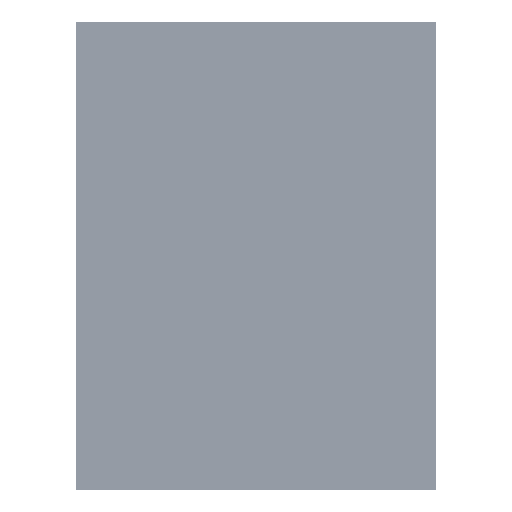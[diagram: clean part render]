
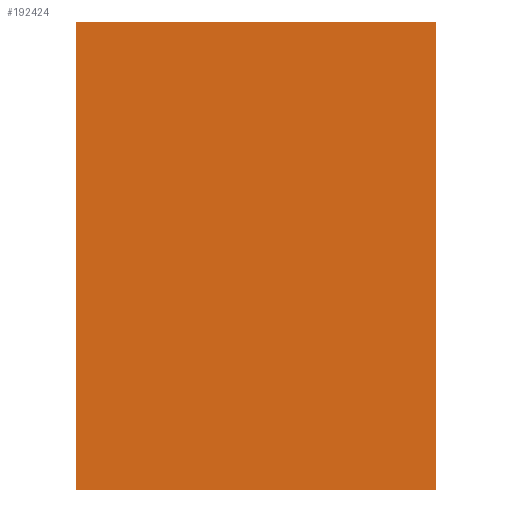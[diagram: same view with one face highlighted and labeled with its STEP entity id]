
A CAD part, front view. The second image highlights one B-rep face of the part: STEP entity #192424.
In plain terms, the highlighted planar face has unit normal (0, -1, 0).
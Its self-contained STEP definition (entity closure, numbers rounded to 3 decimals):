
#32096=FACE_OUTER_BOUND('',#44601,.T.);
#44601=EDGE_LOOP('',(#128674,#128675,#128676,#128677));
#58186=LINE('',#283311,#69300);
#58189=LINE('',#283317,#69303);
#58192=LINE('',#283323,#69306);
#58195=LINE('',#283327,#69309);
#69300=VECTOR('',#228329,10.);
#69303=VECTOR('',#228334,10.);
#69306=VECTOR('',#228339,10.);
#69309=VECTOR('',#228344,10.);
#80448=VERTEX_POINT('',#283308);
#80449=VERTEX_POINT('',#283310);
#80451=VERTEX_POINT('',#283316);
#80453=VERTEX_POINT('',#283322);
#98905=EDGE_CURVE('',#80449,#80448,#58186,.T.);
#98908=EDGE_CURVE('',#80451,#80449,#58189,.T.);
#98911=EDGE_CURVE('',#80453,#80451,#58192,.T.);
#98914=EDGE_CURVE('',#80448,#80453,#58195,.T.);
#128674=ORIENTED_EDGE('',*,*,#98914,.T.);
#128675=ORIENTED_EDGE('',*,*,#98911,.T.);
#128676=ORIENTED_EDGE('',*,*,#98908,.T.);
#128677=ORIENTED_EDGE('',*,*,#98905,.T.);
#187443=PLANE('',#205940);
#192424=ADVANCED_FACE('',(#32096),#187443,.T.);
#205940=AXIS2_PLACEMENT_3D('',#283329,#228347,#228348);
#228329=DIRECTION('',(1.,0.,0.));
#228334=DIRECTION('',(0.,0.,-1.));
#228339=DIRECTION('',(-1.,0.,0.));
#228344=DIRECTION('',(0.,0.,1.));
#228347=DIRECTION('center_axis',(0.,-1.,0.));
#228348=DIRECTION('ref_axis',(0.,0.,-1.));
#283308=CARTESIAN_POINT('',(5000.,-100.,-9000.));
#283310=CARTESIAN_POINT('',(-5000.,-100.,-9000.));
#283311=CARTESIAN_POINT('',(5000.,-100.,-9000.));
#283316=CARTESIAN_POINT('',(-5000.,-100.,4000.));
#283317=CARTESIAN_POINT('',(-5000.,-100.,-4000.));
#283322=CARTESIAN_POINT('',(5000.,-100.,4000.));
#283323=CARTESIAN_POINT('',(-5000.,-100.,4000.));
#283327=CARTESIAN_POINT('',(5000.,-100.,4000.));
#283329=CARTESIAN_POINT('Origin',(0.,-100.,0.));
